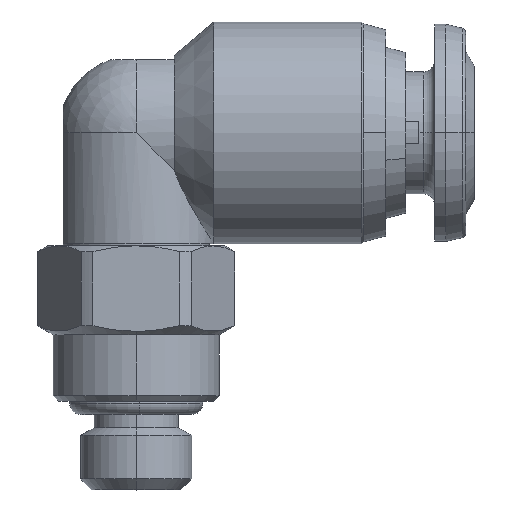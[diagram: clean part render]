
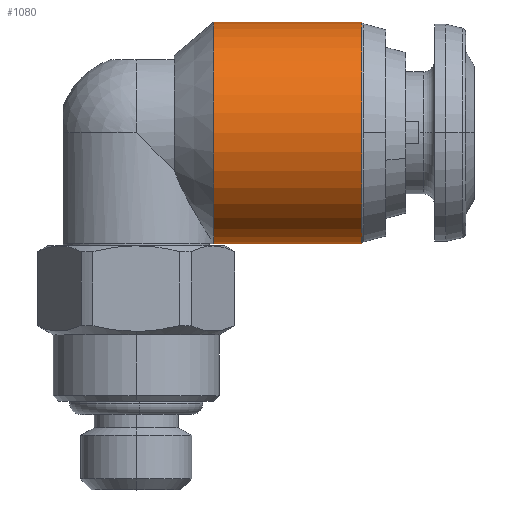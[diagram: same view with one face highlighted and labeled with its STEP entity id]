
A CAD part, top view. The second image highlights one B-rep face of the part: STEP entity #1080.
In plain terms, the highlighted cylindrical face has radius 5 mm (diameter 10 mm), a partial arc.
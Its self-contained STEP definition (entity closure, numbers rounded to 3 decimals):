
#101 = DIRECTION ( 'NONE',  ( -1., 0., 0. ) ) ;
#143 = VERTEX_POINT ( 'NONE', #2381 ) ;
#186 = DIRECTION ( 'NONE',  ( 0., 0., 1. ) ) ;
#232 = VECTOR ( 'NONE', #1243, 1000. ) ;
#243 = EDGE_LOOP ( 'NONE', ( #1855, #1556, #419, #2458, #2713 ) ) ;
#274 = AXIS2_PLACEMENT_3D ( 'NONE', #643, #2796, #2812 ) ;
#280 = AXIS2_PLACEMENT_3D ( 'NONE', #557, #101, #2191 ) ;
#419 = ORIENTED_EDGE ( 'NONE', *, *, #1817, .T. ) ;
#435 = CYLINDRICAL_SURFACE ( 'NONE', #274, 5. ) ;
#533 = VECTOR ( 'NONE', #2654, 1000. ) ;
#557 = CARTESIAN_POINT ( 'NONE',  ( 10.168, 5., 0. ) ) ;
#619 = AXIS2_PLACEMENT_3D ( 'NONE', #1722, #809, #1775 ) ;
#631 = VERTEX_POINT ( 'NONE', #2216 ) ;
#643 = CARTESIAN_POINT ( 'NONE',  ( 12.5, 5., 0. ) ) ;
#649 = CARTESIAN_POINT ( 'NONE',  ( 10.168, 5., 0. ) ) ;
#671 = EDGE_CURVE ( 'NONE', #631, #143, #1711, .T. ) ;
#718 = CARTESIAN_POINT ( 'NONE',  ( 10.168, 10., 0. ) ) ;
#768 = EDGE_CURVE ( 'NONE', #1665, #2546, #2664, .T. ) ;
#787 = CARTESIAN_POINT ( 'NONE',  ( 12.5, 0., 0. ) ) ;
#809 = DIRECTION ( 'NONE',  ( 1., 0., 0. ) ) ;
#1080 = ADVANCED_FACE ( 'NONE', ( #2756 ), #435, .T. ) ;
#1243 = DIRECTION ( 'NONE',  ( 1., 0., 0. ) ) ;
#1556 = ORIENTED_EDGE ( 'NONE', *, *, #671, .T. ) ;
#1665 = VERTEX_POINT ( 'NONE', #2055 ) ;
#1706 = CARTESIAN_POINT ( 'NONE',  ( 12.5, 10., 0. ) ) ;
#1711 = LINE ( 'NONE', #787, #533 ) ;
#1722 = CARTESIAN_POINT ( 'NONE',  ( 3.5, 5., 0. ) ) ;
#1735 = CIRCLE ( 'NONE', #280, 5. ) ;
#1775 = DIRECTION ( 'NONE',  ( 0., 1., 0. ) ) ;
#1790 = CARTESIAN_POINT ( 'NONE',  ( 10.168, 5., 5. ) ) ;
#1817 = EDGE_CURVE ( 'NONE', #143, #2000, #1735, .T. ) ;
#1855 = ORIENTED_EDGE ( 'NONE', *, *, #2766, .T. ) ;
#2000 = VERTEX_POINT ( 'NONE', #1790 ) ;
#2055 = CARTESIAN_POINT ( 'NONE',  ( 3.5, 10., 0. ) ) ;
#2097 = EDGE_CURVE ( 'NONE', #2000, #2546, #2891, .T. ) ;
#2191 = DIRECTION ( 'NONE',  ( 0., 0., 1. ) ) ;
#2216 = CARTESIAN_POINT ( 'NONE',  ( 3.5, 0., 0. ) ) ;
#2381 = CARTESIAN_POINT ( 'NONE',  ( 10.168, 0., 0. ) ) ;
#2387 = DIRECTION ( 'NONE',  ( -1., 0., 0. ) ) ;
#2458 = ORIENTED_EDGE ( 'NONE', *, *, #2097, .T. ) ;
#2546 = VERTEX_POINT ( 'NONE', #718 ) ;
#2654 = DIRECTION ( 'NONE',  ( 1., 0., 0. ) ) ;
#2664 = LINE ( 'NONE', #1706, #232 ) ;
#2713 = ORIENTED_EDGE ( 'NONE', *, *, #768, .F. ) ;
#2756 = FACE_OUTER_BOUND ( 'NONE', #243, .T. ) ;
#2766 = EDGE_CURVE ( 'NONE', #1665, #631, #2950, .T. ) ;
#2796 = DIRECTION ( 'NONE',  ( 1., 0., 0. ) ) ;
#2812 = DIRECTION ( 'NONE',  ( 0., 1., 0. ) ) ;
#2838 = AXIS2_PLACEMENT_3D ( 'NONE', #649, #2387, #186 ) ;
#2891 = CIRCLE ( 'NONE', #2838, 5. ) ;
#2950 = CIRCLE ( 'NONE', #619, 5. ) ;
